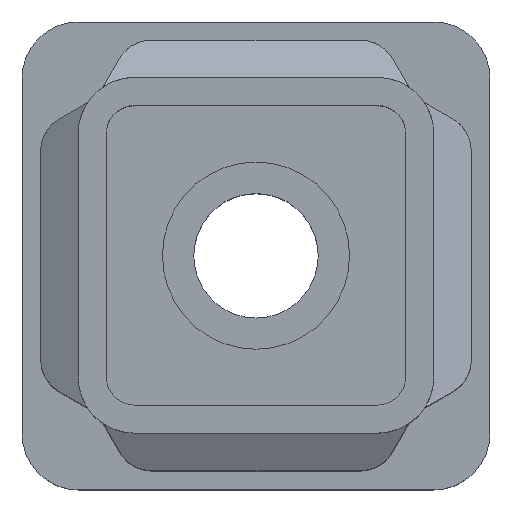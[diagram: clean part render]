
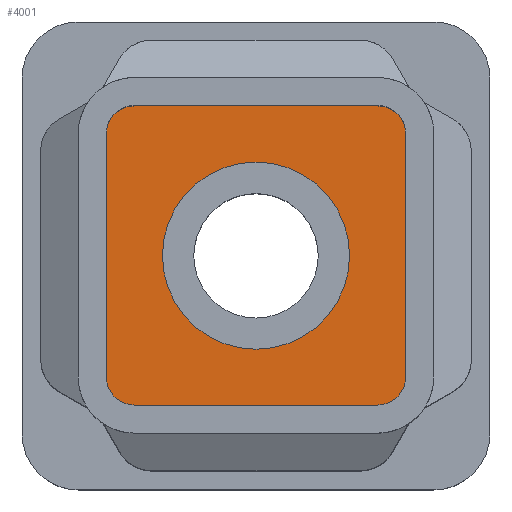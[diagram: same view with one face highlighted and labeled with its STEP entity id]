
A CAD part, top view. The second image highlights one B-rep face of the part: STEP entity #4001.
In plain terms, the highlighted planar face has unit normal (0, 0, 1).
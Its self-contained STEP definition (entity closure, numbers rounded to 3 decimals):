
#440 = LINE ( 'NONE', #441, #7283 ) ;
#441 = CARTESIAN_POINT ( 'NONE',  ( 8., 8., 14.5 ) ) ;
#442 = DIRECTION ( 'NONE',  ( -1., 0., 0. ) ) ;
#448 = LINE ( 'NONE', #449, #7286 ) ;
#449 = CARTESIAN_POINT ( 'NONE',  ( 8., -8., 14.5 ) ) ;
#450 = DIRECTION ( 'NONE',  ( 0., 1., 0. ) ) ;
#460 = LINE ( 'NONE', #461, #7290 ) ;
#461 = CARTESIAN_POINT ( 'NONE',  ( -8., -8., 14.5 ) ) ;
#462 = DIRECTION ( 'NONE',  ( 1., 0., 0. ) ) ;
#469 = LINE ( 'NONE', #470, #7293 ) ;
#470 = CARTESIAN_POINT ( 'NONE',  ( -8., 8., 14.5 ) ) ;
#471 = DIRECTION ( 'NONE',  ( 0., -1., 0. ) ) ;
#492 = CARTESIAN_POINT ( 'NONE',  ( 0., 0., 14.5 ) ) ;
#493 = DIRECTION ( 'NONE',  ( 0., 0., 1. ) ) ;
#494 = DIRECTION ( 'NONE',  ( 1., 0., 0. ) ) ;
#495 = CARTESIAN_POINT ( 'NONE',  ( 6.5, -6.5, 14.5 ) ) ;
#496 = DIRECTION ( 'NONE',  ( 0., 0., 1. ) ) ;
#497 = DIRECTION ( 'NONE',  ( 1., 0., 0. ) ) ;
#498 = CARTESIAN_POINT ( 'NONE',  ( 6.5, 6.5, 14.5 ) ) ;
#499 = DIRECTION ( 'NONE',  ( 0., 0., 1. ) ) ;
#500 = DIRECTION ( 'NONE',  ( 1., 0., 0. ) ) ;
#502 = CARTESIAN_POINT ( 'NONE',  ( -6.5, 6.5, 14.5 ) ) ;
#503 = DIRECTION ( 'NONE',  ( 0., 0., 1. ) ) ;
#504 = DIRECTION ( 'NONE',  ( 1., 0., 0. ) ) ;
#505 = CARTESIAN_POINT ( 'NONE',  ( -6.5, -6.5, 14.5 ) ) ;
#506 = DIRECTION ( 'NONE',  ( 0., 0., 1. ) ) ;
#507 = DIRECTION ( 'NONE',  ( 1., 0., 0. ) ) ;
#667 = FACE_OUTER_BOUND ( 'NONE', #1838, .T. ) ;
#669 = DIRECTION ( 'NONE',  ( 0., 0., 1. ) ) ;
#672 = CARTESIAN_POINT ( 'NONE',  ( -8., 8., 14.5 ) ) ;
#673 = FACE_BOUND ( 'NONE', #1839, .T. ) ;
#675 = PLANE ( 'NONE',  #1068 ) ;
#677 = DIRECTION ( 'NONE',  ( 1., 0., 0. ) ) ;
#1068 = AXIS2_PLACEMENT_3D ( 'NONE', #672, #669, #677 ) ;
#1346 = CIRCLE ( 'NONE', #1350, 5. ) ;
#1350 = AXIS2_PLACEMENT_3D ( 'NONE', #4358, #4359, #4360 ) ;
#1602 = EDGE_CURVE ( 'NONE', #2337, #2338, #1346, .T. ) ;
#1838 = EDGE_LOOP ( 'NONE', ( #3293, #3294, #3295, #3296, #3297, #3298, #3299, #3300 ) ) ;
#1839 = EDGE_LOOP ( 'NONE', ( #3291, #3292 ) ) ;
#2337 = VERTEX_POINT ( 'NONE', #5902 ) ;
#2338 = VERTEX_POINT ( 'NONE', #5900 ) ;
#2713 = VERTEX_POINT ( 'NONE', #6274 ) ;
#2718 = VERTEX_POINT ( 'NONE', #6279 ) ;
#2723 = VERTEX_POINT ( 'NONE', #6284 ) ;
#2724 = VERTEX_POINT ( 'NONE', #6285 ) ;
#2725 = VERTEX_POINT ( 'NONE', #6286 ) ;
#2726 = VERTEX_POINT ( 'NONE', #6287 ) ;
#2729 = VERTEX_POINT ( 'NONE', #6290 ) ;
#2730 = VERTEX_POINT ( 'NONE', #6291 ) ;
#3291 = ORIENTED_EDGE ( 'NONE', *, *, #3949, .F. ) ;
#3292 = ORIENTED_EDGE ( 'NONE', *, *, #1602, .F. ) ;
#3293 = ORIENTED_EDGE ( 'NONE', *, *, #3944, .T. ) ;
#3294 = ORIENTED_EDGE ( 'NONE', *, *, #3950, .T. ) ;
#3295 = ORIENTED_EDGE ( 'NONE', *, *, #3940, .T. ) ;
#3296 = ORIENTED_EDGE ( 'NONE', *, *, #3951, .T. ) ;
#3297 = ORIENTED_EDGE ( 'NONE', *, *, #3937, .T. ) ;
#3298 = ORIENTED_EDGE ( 'NONE', *, *, #3952, .T. ) ;
#3299 = ORIENTED_EDGE ( 'NONE', *, *, #3947, .T. ) ;
#3300 = ORIENTED_EDGE ( 'NONE', *, *, #3953, .T. ) ;
#3937 = EDGE_CURVE ( 'NONE', #2718, #2713, #440, .T. ) ;
#3940 = EDGE_CURVE ( 'NONE', #2726, #2723, #448, .T. ) ;
#3944 = EDGE_CURVE ( 'NONE', #2725, #2724, #460, .T. ) ;
#3947 = EDGE_CURVE ( 'NONE', #2730, #2729, #469, .T. ) ;
#3949 = EDGE_CURVE ( 'NONE', #2338, #2337, #7295, .T. ) ;
#3950 = EDGE_CURVE ( 'NONE', #2724, #2726, #7296, .T. ) ;
#3951 = EDGE_CURVE ( 'NONE', #2723, #2718, #7298, .T. ) ;
#3952 = EDGE_CURVE ( 'NONE', #2713, #2730, #7300, .T. ) ;
#3953 = EDGE_CURVE ( 'NONE', #2729, #2725, #7302, .T. ) ;
#4001 = ADVANCED_FACE ( 'NONE', ( #673, #667 ), #675, .T. ) ;
#4358 = CARTESIAN_POINT ( 'NONE',  ( 0., 0., 14.5 ) ) ;
#4359 = DIRECTION ( 'NONE',  ( 0., 0., 1. ) ) ;
#4360 = DIRECTION ( 'NONE',  ( 1., 0., 0. ) ) ;
#5900 = CARTESIAN_POINT ( 'NONE',  ( 5., 0., 14.5 ) ) ;
#5902 = CARTESIAN_POINT ( 'NONE',  ( -5., 0., 14.5 ) ) ;
#6274 = CARTESIAN_POINT ( 'NONE',  ( -6.5, 8., 14.5 ) ) ;
#6279 = CARTESIAN_POINT ( 'NONE',  ( 6.5, 8., 14.5 ) ) ;
#6284 = CARTESIAN_POINT ( 'NONE',  ( 8., 6.5, 14.5 ) ) ;
#6285 = CARTESIAN_POINT ( 'NONE',  ( 6.5, -8., 14.5 ) ) ;
#6286 = CARTESIAN_POINT ( 'NONE',  ( -6.5, -8., 14.5 ) ) ;
#6287 = CARTESIAN_POINT ( 'NONE',  ( 8., -6.5, 14.5 ) ) ;
#6290 = CARTESIAN_POINT ( 'NONE',  ( -8., -6.5, 14.5 ) ) ;
#6291 = CARTESIAN_POINT ( 'NONE',  ( -8., 6.5, 14.5 ) ) ;
#7283 = VECTOR ( 'NONE', #442, 1000. ) ;
#7286 = VECTOR ( 'NONE', #450, 1000. ) ;
#7290 = VECTOR ( 'NONE', #462, 1000. ) ;
#7293 = VECTOR ( 'NONE', #471, 1000. ) ;
#7295 = CIRCLE ( 'NONE', #7297, 5. ) ;
#7296 = CIRCLE ( 'NONE', #7299, 1.5 ) ;
#7297 = AXIS2_PLACEMENT_3D ( 'NONE', #492, #493, #494 ) ;
#7298 = CIRCLE ( 'NONE', #7301, 1.5 ) ;
#7299 = AXIS2_PLACEMENT_3D ( 'NONE', #495, #496, #497 ) ;
#7300 = CIRCLE ( 'NONE', #7303, 1.5 ) ;
#7301 = AXIS2_PLACEMENT_3D ( 'NONE', #498, #499, #500 ) ;
#7302 = CIRCLE ( 'NONE', #7305, 1.5 ) ;
#7303 = AXIS2_PLACEMENT_3D ( 'NONE', #502, #503, #504 ) ;
#7305 = AXIS2_PLACEMENT_3D ( 'NONE', #505, #506, #507 ) ;
